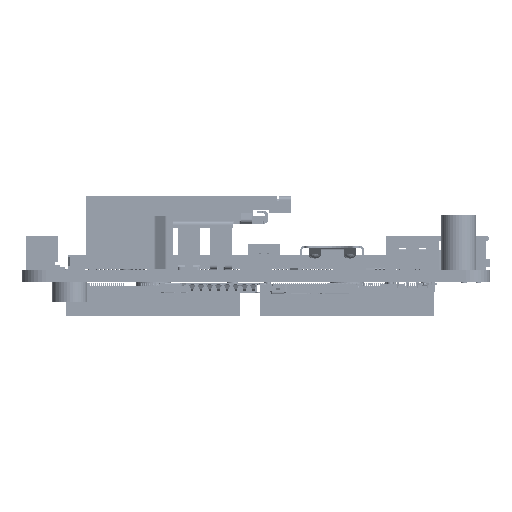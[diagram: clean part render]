
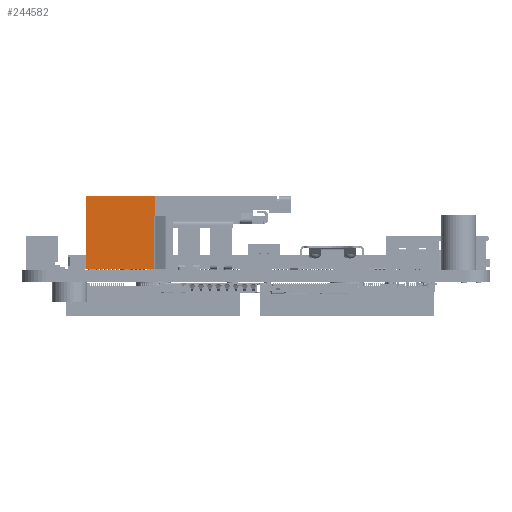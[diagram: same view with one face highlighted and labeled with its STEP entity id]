
A CAD part, left-side view. The second image highlights one B-rep face of the part: STEP entity #244582.
In plain terms, the highlighted planar face has unit normal (-1, 0, 0).
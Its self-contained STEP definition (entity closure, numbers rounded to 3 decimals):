
#13865=FACE_OUTER_BOUND('',#26731,.T.);
#26731=EDGE_LOOP('',(#171613,#171614,#171615,#171616,#171617,#171618));
#38316=LINE('',#344698,#67402);
#39956=LINE('',#348238,#69042);
#44488=LINE('',#360519,#73574);
#44495=LINE('',#360539,#73581);
#44496=LINE('',#360541,#73582);
#44497=LINE('',#360542,#73583);
#67402=VECTOR('',#276167,1.);
#69042=VECTOR('',#277917,1.);
#73574=VECTOR('',#290043,1.);
#73581=VECTOR('',#290062,1.);
#73582=VECTOR('',#290065,1.);
#73583=VECTOR('',#290066,1.);
#96285=VERTEX_POINT('',#344695);
#96286=VERTEX_POINT('',#344697);
#97941=VERTEX_POINT('',#348235);
#97942=VERTEX_POINT('',#348237);
#101885=VERTEX_POINT('',#360516);
#101886=VERTEX_POINT('',#360518);
#120400=EDGE_CURVE('',#96286,#96285,#38316,.T.);
#122076=EDGE_CURVE('',#97941,#97942,#39956,.T.);
#128283=EDGE_CURVE('',#101885,#101886,#44488,.T.);
#128294=EDGE_CURVE('',#97942,#101885,#44495,.T.);
#128295=EDGE_CURVE('',#96286,#97941,#44496,.T.);
#128296=EDGE_CURVE('',#96285,#101886,#44497,.T.);
#171613=ORIENTED_EDGE('',*,*,#128294,.F.);
#171614=ORIENTED_EDGE('',*,*,#122076,.F.);
#171615=ORIENTED_EDGE('',*,*,#128295,.F.);
#171616=ORIENTED_EDGE('',*,*,#120400,.T.);
#171617=ORIENTED_EDGE('',*,*,#128296,.T.);
#171618=ORIENTED_EDGE('',*,*,#128283,.F.);
#229175=PLANE('',#259432);
#244582=ADVANCED_FACE('',(#13865),#229175,.T.);
#259432=AXIS2_PLACEMENT_3D('',#360540,#290063,#290064);
#276167=DIRECTION('',(0.,0.,1.));
#277917=DIRECTION('',(0.,0.,1.));
#290043=DIRECTION('',(0.,0.,-1.));
#290062=DIRECTION('',(0.,-1.,0.));
#290063=DIRECTION('center_axis',(-1.,0.,0.));
#290064=DIRECTION('ref_axis',(0.,0.,1.));
#290065=DIRECTION('',(0.,1.,0.));
#290066=DIRECTION('',(0.,1.,0.));
#344695=CARTESIAN_POINT('',(-36.5,-4.575,-17.287));
#344697=CARTESIAN_POINT('',(-36.5,-4.575,-25.85));
#344698=CARTESIAN_POINT('',(-36.5,-4.575,-25.85));
#348235=CARTESIAN_POINT('',(-36.5,4.575,-25.85));
#348237=CARTESIAN_POINT('',(-36.5,4.575,-17.15));
#348238=CARTESIAN_POINT('',(-36.5,4.575,-25.85));
#360516=CARTESIAN_POINT('',(-36.5,2.045,-17.15));
#360518=CARTESIAN_POINT('',(-36.5,2.045,-17.287));
#360519=CARTESIAN_POINT('',(-36.5,2.045,-17.15));
#360539=CARTESIAN_POINT('',(-36.5,4.575,-17.15));
#360540=CARTESIAN_POINT('Origin',(-36.5,-4.575,-25.85));
#360541=CARTESIAN_POINT('',(-36.5,-4.575,-25.85));
#360542=CARTESIAN_POINT('',(-36.5,-4.575,-17.287));
